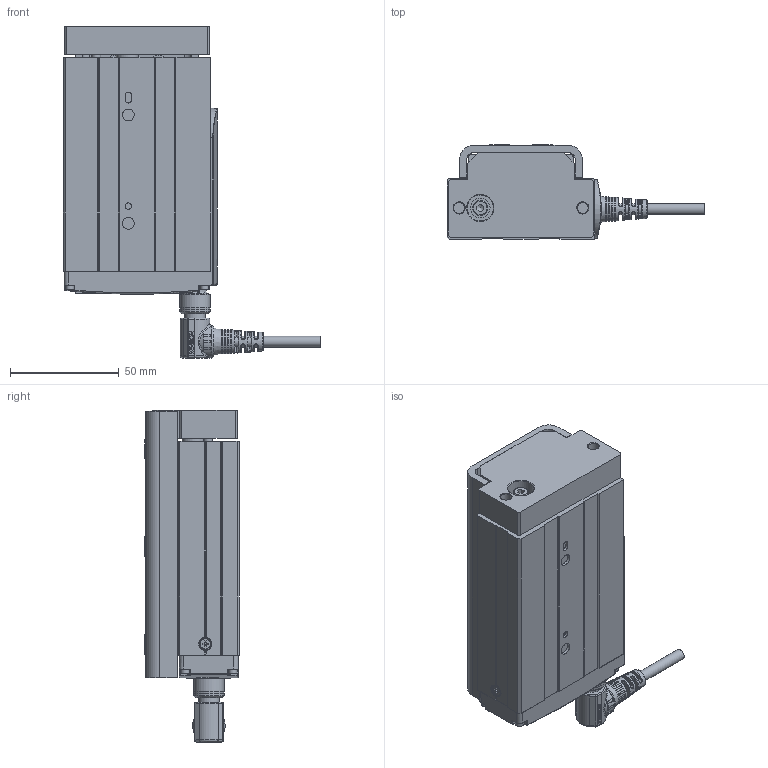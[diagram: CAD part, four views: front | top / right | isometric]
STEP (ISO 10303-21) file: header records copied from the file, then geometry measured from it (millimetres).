
FILE_DESCRIPTION(/* description */ ('STEP AP203'),/* implementation_level */ '2;1');
FILE_NAME(/* name */ 'D:\暫\2025.02.06 CSG 3D\CSG25\CSG25-S50-WL.stp',/* time_stamp */ '2025-02-08T09:50:39+08:00',/* author */ ('T10033'),/* organization */ (''),/* preprocessor_version */ 'ST-DEVELOPER v18.1',/* originating_system */ 'Autodesk Inventor 2020',/* authorisation */ '');
FILE_SCHEMA (('CONFIG_CONTROL_DESIGN'));
Products named in the file (20): CSG25-50行程-180接頭-完整組合; 22024-000496; plain washer 10673 type snl_iso_ISO 10673-4.55-S; 22035-000061(G4ªo¯]); countersunk flat head cross recess screw_iso_ISO 7046-1 - M2.5 x 4 - 
Z - 4N; plain washer 10673 type snl_iso_ISO 10673-2.75-S; socket head cap screw_iso_ISO 4762 M2.5 x 5 - 5N; ©T©wªO-·¥­­¾×ª
O4-M2¤ú; socket head cap screw_iso_ISO 4762 M2.5 x 6 - 6N; socket head cap screw_iso_ISO 4762 M2.5 x 8 - 8N; ¶ì½¦ºÝ»-L¼Ë¦¡
(TOYO); socket head cap screw_iso_ISO 4762 M2 x 12 - 12N; M12 -14PIN  ªOºÝ-²Ä¤@ºØ
³W®æ; CSG25-50¥»Åé3ª©-ªo¤Õ
½Õ¾ã¨¤«×; 12003-000221-­×§ï; CSG25-Carriage-newtype; CNS 3932 - M 4 x 0.7 x 12; CNS 4558 - M5 x 0.8 x 12; Solid1-2; M12-14PIN 線端90度接頭-05中繼線
Assembly tree (31 placements, depth 2):
  CSG25-50行程-180接頭-完整組合
    22024-000496
    plain washer 10673 type snl_iso_ISO 10673-4.55-S
    22035-000061(G4ªo¯])
    socket head cap screw_iso_ISO 4762 M2.5 x 8 - 8N  x8
    countersunk flat head cross recess screw_iso_ISO 7046-1 - M2.5 x 4 - 
Z - 4N
    plain washer 10673 type snl_iso_ISO 10673-2.75-S
    socket head cap screw_iso_ISO 4762 M2.5 x 5 - 5N
    ©T©wªO-·¥­­¾×ª
O4-M2¤ú
    socket head cap screw_iso_ISO 4762 M2.5 x 6 - 6N  x2
    ¶ì½¦ºÝ»-L¼Ë¦¡
(TOYO)
    socket head cap screw_iso_ISO 4762 M2 x 12 - 12N  x4
    M12 -14PIN  ªOºÝ-²Ä¤@ºØ
³W®æ
    CSG25-50¥»Åé3ª©-ªo¤Õ
½Õ¾ã¨¤«×
    12003-000221-­×§ï
    CSG25-Carriage-newtype
    CNS 3932 - M 4 x 0.7 x 12
    CNS 4558 - M5 x 0.8 x 12  x2
    Solid1-2
    M12-14PIN 線端90度接頭-05中繼線
Bounding box: 118.75 x 43.5 x 153 mm (x, y, z)
Volume: 272176 mm3; surface area: 80777.9 mm2
Topology: 45 solids, 54 shells, 2996 faces, 8239 edges, 5480 vertices
Faces by surface type: plane 1435, bspline 647, cylinder 500, cone 282, torus 125, sphere 7
Full cylindrical faces by diameter (mm): 0.6 x14, 0.65 x14, 1 x14, 1.6 x4, 2 x4, 2.05 x3, 2.5 x13, 2.75 x1, 2.9 x2, 3 x3, 3.8 x4, 4 x1, 4.134 x8, 4.5 x11, 4.55 x1, 4.7 x1, 4.95 x1, 5 x6, 5.2 x1, 5.3 x2, 5.4 x4, 5.5 x4, 6 x4, 7 x1, 8 x1, 8.9 x1, 9 x13, 9.5 x2, 9.6 x1, 10 x6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
Entity records: 115825 total; most frequent: CARTESIAN_POINT 44655, ORIENTED_EDGE 15199, DIRECTION 13363, EDGE_CURVE 7618, VERTEX_POINT 5093, AXIS2_PLACEMENT_3D 4682, LINE 3999, VECTOR 3999
